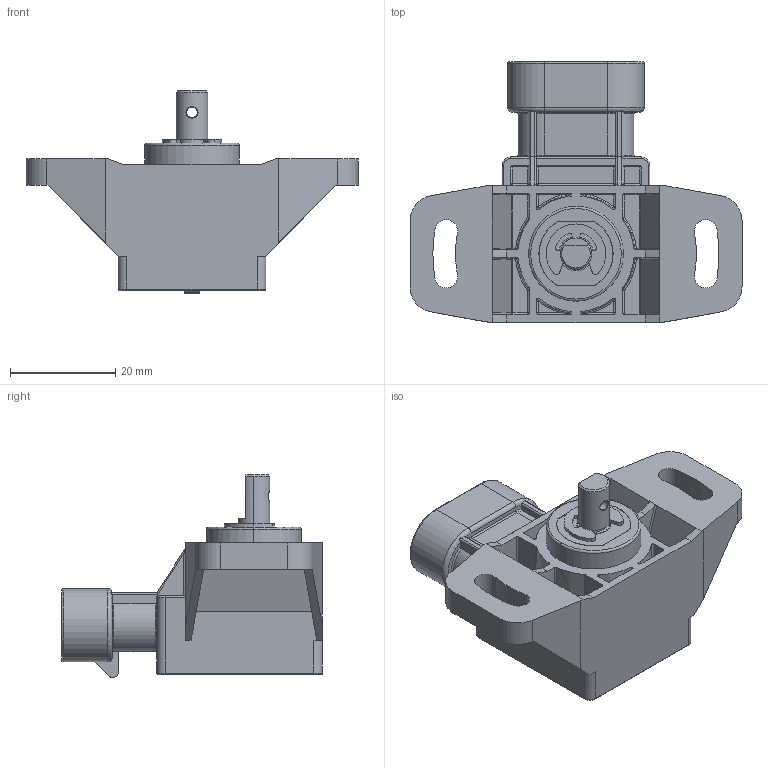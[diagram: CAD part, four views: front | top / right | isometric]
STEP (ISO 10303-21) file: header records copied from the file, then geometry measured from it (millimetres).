
FILE_DESCRIPTION (( 'STEP AP203' ), '1' );
FILE_NAME ('GR3PA S5E1MS xxx xxxx X0.STEP', '2024-12-19T15:23:54', ( '' ), ( '' ), 'SwSTEP 2.0', 'SolidWorks 2024', '' );
FILE_SCHEMA (( 'CONFIG_CONTROL_DESIGN' ));
Length unit declared in the file: millimetre
Products named in the file (1): GR3PA S5E1MS xxx xxxx X0
Bounding box: 63 x 49.5 x 38.47 mm (x, y, z)
Volume: 24797.9 mm3; surface area: 12780 mm2
Topology: 7 solids, 7 shells, 533 faces, 1314 edges, 783 vertices
Faces by surface type: plane 210, cylinder 188, bspline 46, sphere 40, torus 36, cone 13
Entity records: 18194 total; most frequent: CARTESIAN_POINT 5923, ORIENTED_EDGE 2556, DIRECTION 2527, EDGE_CURVE 1278, AXIS2_PLACEMENT_3D 922, VERTEX_POINT 783, VECTOR 683, LINE 683
